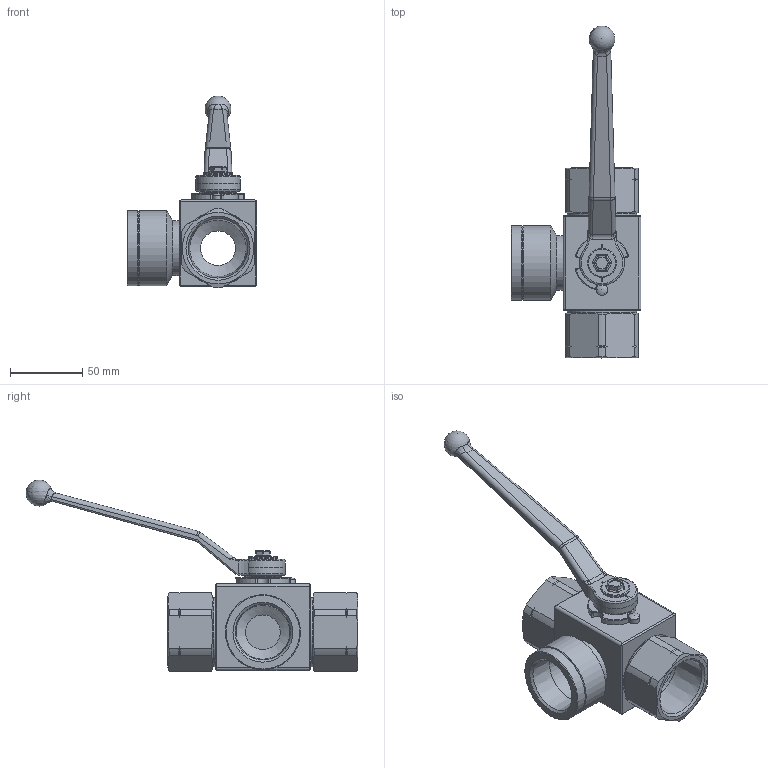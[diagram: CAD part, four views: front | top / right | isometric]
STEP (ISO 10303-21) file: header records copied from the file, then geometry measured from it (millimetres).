
FILE_DESCRIPTION( ( 'Unknown' ), '1' );
FILE_NAME( 'H:/PISTER/3D-MODELLE/BK3 stp/BK3 DN25 5_4 NPT.stp', 'Unknown', ( 'Unknown' ), ( 'Unknown' ), 'PSStep 14.0', 'Unknown', ' ' );
FILE_SCHEMA( ( 'AUTOMOTIVE_DESIGN { 1 0 10303 214 1 1 1 1 }' ) );
Length unit declared in the file: millimetre
Products named in the file (11): Assem1; 10-025-001; 06-025-186-oa7; 09-14-001; 58-28740-13-oa8; Griff_SW14; 58-0933-147; 04-025-009-oa9; 04-025-009-oa10; 01-025-024-oa11; 04-025-061-oa12
Assembly tree (10 placements, depth 2):
  Assem1
    10-025-001
    06-025-186-oa7
    09-14-001
    58-28740-13-oa8
    Griff_SW14
    58-0933-147
    04-025-009-oa9
    04-025-009-oa10
    01-025-024-oa11
    04-025-061-oa12
Bounding box: 90 x 229.68 x 132.9 mm (x, y, z)
Volume: 148987.2 mm3; surface area: 85304.8 mm2
Topology: 10 solids, 10 shells, 405 faces, 1033 edges, 639 vertices
Faces by surface type: cylinder 140, plane 128, cone 53, torus 42, bspline 28, sphere 14
Full cylindrical faces by diameter (mm): 5 x1, 6 x1, 6.5 x1, 7.98 x1, 20 x3, 20.2 x1, 24 x3, 25 x1, 37.368 x1, 37.8 x1, 38 x1, 39.136 x2, 43.3 x2, 48 x2, 50 x2, 51 x2, 52 x2
Entity records: 16554 total; most frequent: CARTESIAN_POINT 3948, DIRECTION 1979, ORIENTED_EDGE 1828, EDGE_CURVE 914, AXIS2_PLACEMENT_3D 813, VERTEX_POINT 603, EDGE_LOOP 498, FACE_OUTER_BOUND 443
